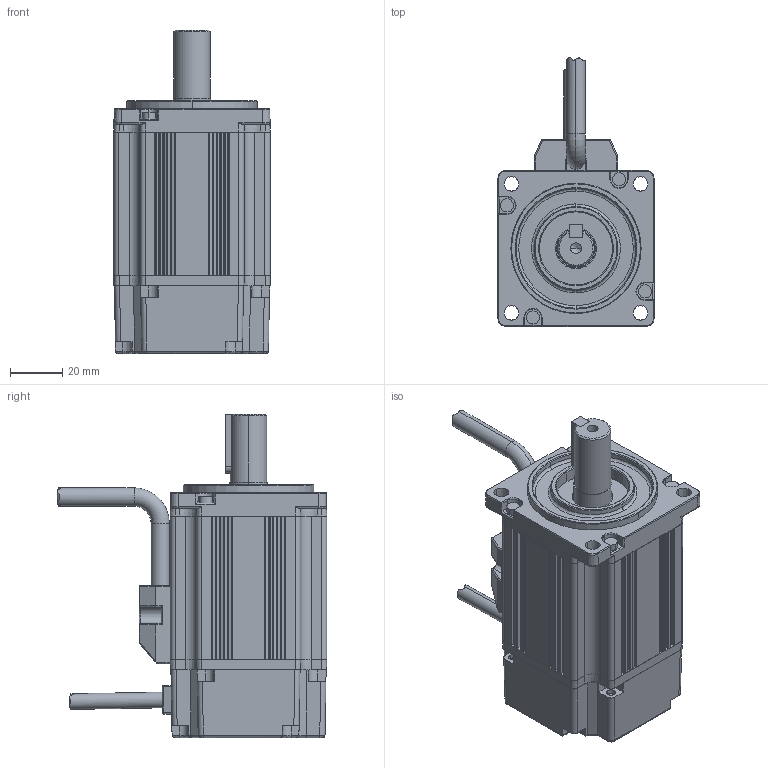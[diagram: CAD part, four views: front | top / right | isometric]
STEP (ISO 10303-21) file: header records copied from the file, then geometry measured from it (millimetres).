
FILE_DESCRIPTION (( 'STEP AP203' ), '1' );
FILE_NAME ('z60mm_200W_final_asm.STEP', '2010-03-12T05:42:13', ( '' ), ( '' ), 'SwSTEP 2.0', 'SolidWorks 2011', '' );
FILE_SCHEMA (( 'CONFIG_CONTROL_DESIGN' ));
Length unit declared in the file: millimetre
Products named in the file (1): z60mm_200W_final_asm
Bounding box: 60 x 103.36 x 124 mm (x, y, z)
Volume: 100397.9 mm3; surface area: 78883.6 mm2
Topology: 12 solids, 12 shells, 937 faces, 2410 edges, 1502 vertices
Faces by surface type: cylinder 396, plane 273, cone 163, bspline 99, torus 6
Entity records: 31237 total; most frequent: CARTESIAN_POINT 8495, DIRECTION 4811, ORIENTED_EDGE 4764, EDGE_CURVE 2382, AXIS2_PLACEMENT_3D 1799, VERTEX_POINT 1502, LINE 1213, VECTOR 1213
